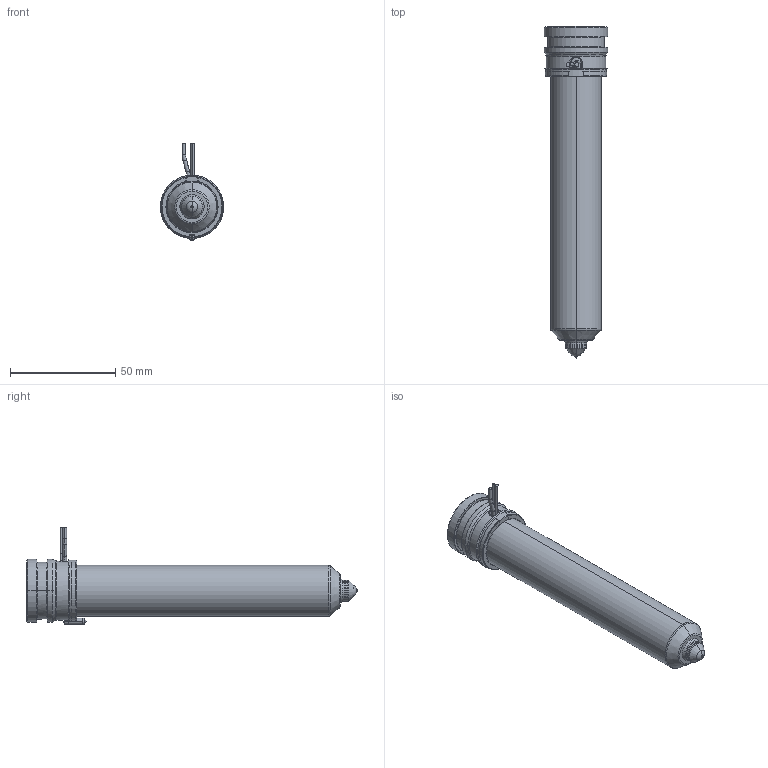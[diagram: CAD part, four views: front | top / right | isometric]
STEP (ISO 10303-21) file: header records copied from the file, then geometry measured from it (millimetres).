
FILE_DESCRIPTION((''),'2;1');
FILE_NAME('MPN-10-29-VX10-136-A','2026-02-05T12:41:07',('UPTIO'),('Thermoplay S.p.A.'),'CREO PARAMETRIC BY PTC INC, 2023494','CREO PARAMETRIC BY PTC INC, 2023494','');
FILE_SCHEMA(('CONFIG_CONTROL_DESIGN','SHAPE_APPEARANCE_LAYERS_GROUPS'));
Length unit declared in the file: millimetre
Products named in the file (1): MPN-10-29-VX10-136-A
Bounding box: 30 x 157.5 x 46 mm (x, y, z)
Volume: 48853 mm3; surface area: 49354.7 mm2
Topology: 2 solids, 3 shells, 557 faces, 1459 edges, 901 vertices
Faces by surface type: cylinder 182, plane 144, bspline 76, torus 72, cone 70, sphere 9, extrusion 4
Entity records: 30728 total; most frequent: CARTESIAN_POINT 14221, ORIENTED_EDGE 2906, DIRECTION 2711, EDGE_CURVE 1453, AXIS2_PLACEMENT_3D 1078, VERTEX_POINT 901, CIRCLE 600, EDGE_LOOP 586
